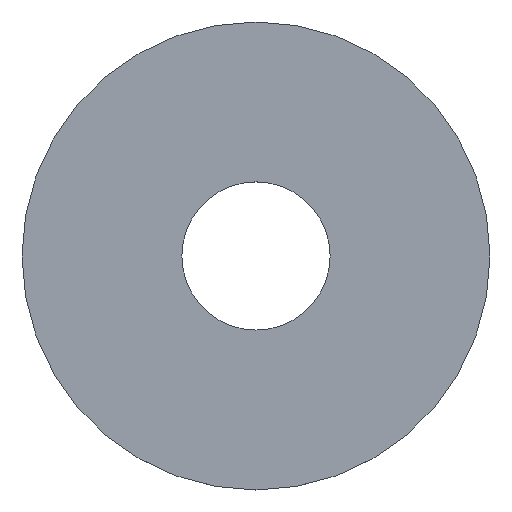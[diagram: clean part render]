
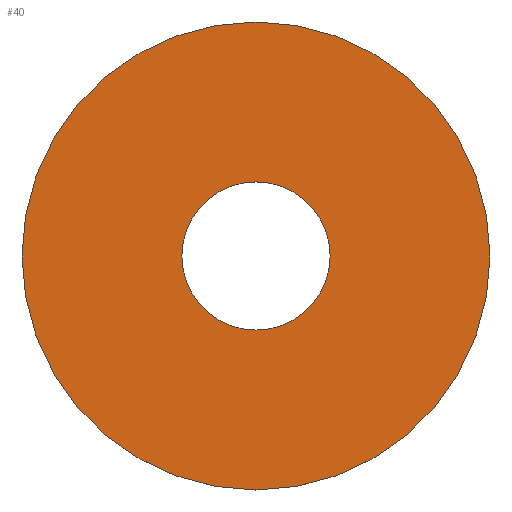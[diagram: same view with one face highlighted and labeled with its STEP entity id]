
A CAD part, top view. The second image highlights one B-rep face of the part: STEP entity #40.
In plain terms, the highlighted planar face has unit normal (0, 0, 1).
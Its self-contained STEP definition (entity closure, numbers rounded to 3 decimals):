
#3 = ORIENTED_EDGE ( 'NONE', *, *, #188, .T. ) ;
#5 = EDGE_CURVE ( 'NONE', #12, #69, #179, .T. ) ;
#10 = ORIENTED_EDGE ( 'NONE', *, *, #186, .T. ) ;
#11 = AXIS2_PLACEMENT_3D ( 'NONE', #15, #139, #30 ) ;
#12 = VERTEX_POINT ( 'NONE', #82 ) ;
#15 = CARTESIAN_POINT ( 'NONE',  ( 0., 0., 0.4 ) ) ;
#17 = VERTEX_POINT ( 'NONE', #33 ) ;
#27 = AXIS2_PLACEMENT_3D ( 'NONE', #36, #163, #52 ) ;
#30 = DIRECTION ( 'NONE',  ( 1., 0., 0. ) ) ;
#33 = CARTESIAN_POINT ( 'NONE',  ( -15., 0., 0.4 ) ) ;
#34 = FACE_OUTER_BOUND ( 'NONE', #113, .T. ) ;
#36 = CARTESIAN_POINT ( 'NONE',  ( 0., 0., 0.4 ) ) ;
#37 = EDGE_LOOP ( 'NONE', ( #184, #119 ) ) ;
#40 = ADVANCED_FACE ( 'NONE', ( #34, #164 ), #118, .T. ) ;
#46 = EDGE_CURVE ( 'NONE', #69, #12, #208, .T. ) ;
#52 = DIRECTION ( 'NONE',  ( 1., 0., 0. ) ) ;
#68 = DIRECTION ( 'NONE',  ( 1., 0., 0. ) ) ;
#69 = VERTEX_POINT ( 'NONE', #154 ) ;
#72 = AXIS2_PLACEMENT_3D ( 'NONE', #84, #159, #158 ) ;
#82 = CARTESIAN_POINT ( 'NONE',  ( 4.75, 0., 0.4 ) ) ;
#84 = CARTESIAN_POINT ( 'NONE',  ( 0., 0., 0.4 ) ) ;
#85 = CARTESIAN_POINT ( 'NONE',  ( 0., 0., 0.4 ) ) ;
#106 = CARTESIAN_POINT ( 'NONE',  ( 0., 0., 0.4 ) ) ;
#110 = DIRECTION ( 'NONE',  ( 1., 0., 0. ) ) ;
#113 = EDGE_LOOP ( 'NONE', ( #3, #10 ) ) ;
#118 = PLANE ( 'NONE',  #11 ) ;
#119 = ORIENTED_EDGE ( 'NONE', *, *, #5, .F. ) ;
#139 = DIRECTION ( 'NONE',  ( 0., 0., 1. ) ) ;
#140 = DIRECTION ( 'NONE',  ( 0., 0., 1. ) ) ;
#142 = VERTEX_POINT ( 'NONE', #170 ) ;
#148 = CIRCLE ( 'NONE', #171, 15. ) ;
#154 = CARTESIAN_POINT ( 'NONE',  ( -4.75, 0., 0.4 ) ) ;
#158 = DIRECTION ( 'NONE',  ( 1., 0., 0. ) ) ;
#159 = DIRECTION ( 'NONE',  ( 0., 0., 1. ) ) ;
#161 = DIRECTION ( 'NONE',  ( 0., 0., 1. ) ) ;
#163 = DIRECTION ( 'NONE',  ( 0., 0., 1. ) ) ;
#164 = FACE_BOUND ( 'NONE', #37, .T. ) ;
#170 = CARTESIAN_POINT ( 'NONE',  ( 15., 0., 0.4 ) ) ;
#171 = AXIS2_PLACEMENT_3D ( 'NONE', #85, #140, #110 ) ;
#179 = CIRCLE ( 'NONE', #205, 4.75 ) ;
#184 = ORIENTED_EDGE ( 'NONE', *, *, #46, .F. ) ;
#186 = EDGE_CURVE ( 'NONE', #142, #17, #148, .T. ) ;
#188 = EDGE_CURVE ( 'NONE', #17, #142, #210, .T. ) ;
#205 = AXIS2_PLACEMENT_3D ( 'NONE', #106, #161, #68 ) ;
#208 = CIRCLE ( 'NONE', #27, 4.75 ) ;
#210 = CIRCLE ( 'NONE', #72, 15. ) ;
